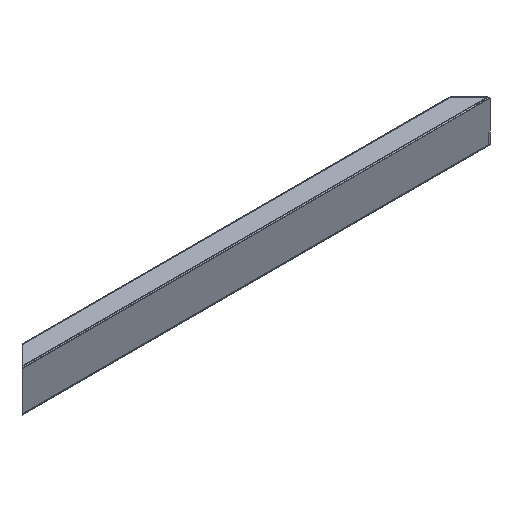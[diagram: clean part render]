
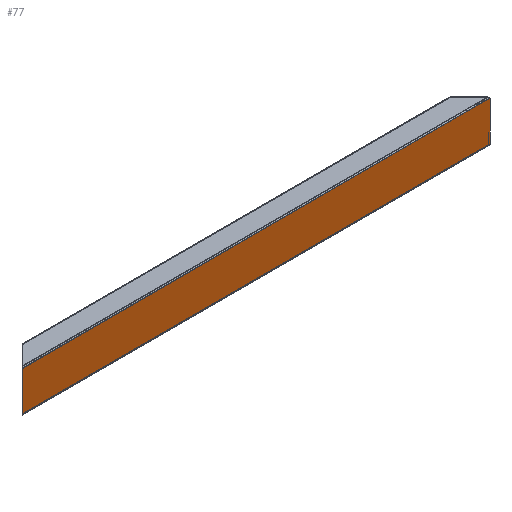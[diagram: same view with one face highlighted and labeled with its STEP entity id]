
A CAD part, isometric view. The second image highlights one B-rep face of the part: STEP entity #77.
In plain terms, the highlighted planar face has unit normal (0, -1, 0).
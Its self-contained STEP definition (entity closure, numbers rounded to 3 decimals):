
#51=PLANE('',#464);
#77=ADVANCED_FACE('',(#111),#51,.T.);
#111=FACE_OUTER_BOUND('',#131,.T.);
#131=EDGE_LOOP('',(#206,#207,#208,#209));
#206=ORIENTED_EDGE('',*,*,#332,.T.);
#207=ORIENTED_EDGE('',*,*,#364,.T.);
#208=ORIENTED_EDGE('',*,*,#322,.T.);
#209=ORIENTED_EDGE('',*,*,#365,.T.);
#282=VERTEX_POINT('',#597);
#283=VERTEX_POINT('',#598);
#292=VERTEX_POINT('',#618);
#293=VERTEX_POINT('',#620);
#322=EDGE_CURVE('',#282,#283,#382,.T.);
#332=EDGE_CURVE('',#293,#292,#387,.T.);
#364=EDGE_CURVE('',#292,#282,#408,.T.);
#365=EDGE_CURVE('',#283,#293,#409,.T.);
#382=LINE('',#596,#414);
#387=LINE('',#619,#419);
#408=LINE('',#703,#440);
#409=LINE('',#704,#441);
#414=VECTOR('',#487,1.);
#419=VECTOR('',#506,1.);
#440=VECTOR('',#547,1.);
#441=VECTOR('',#548,1.);
#464=AXIS2_PLACEMENT_3D('',#705,#549,#550);
#487=DIRECTION('',(-1.,0.,0.));
#506=DIRECTION('',(1.,0.,0.));
#547=DIRECTION('',(0.,0.,1.));
#548=DIRECTION('',(0.,0.,-1.));
#549=DIRECTION('',(0.,-1.,0.));
#550=DIRECTION('',(1.,0.,0.));
#596=CARTESIAN_POINT('',(1389.5,135.,1173.5));
#597=CARTESIAN_POINT('',(1189.5,135.,1173.5));
#598=CARTESIAN_POINT('',(-1030.5,135.,1173.5));
#618=CARTESIAN_POINT('',(1189.5,135.,985.5));
#619=CARTESIAN_POINT('',(1389.5,135.,985.5));
#620=CARTESIAN_POINT('',(-1030.5,135.,985.5));
#703=CARTESIAN_POINT('',(1189.5,135.,979.5));
#704=CARTESIAN_POINT('',(-1030.5,135.,979.5));
#705=CARTESIAN_POINT('',(1389.5,135.,979.5));
